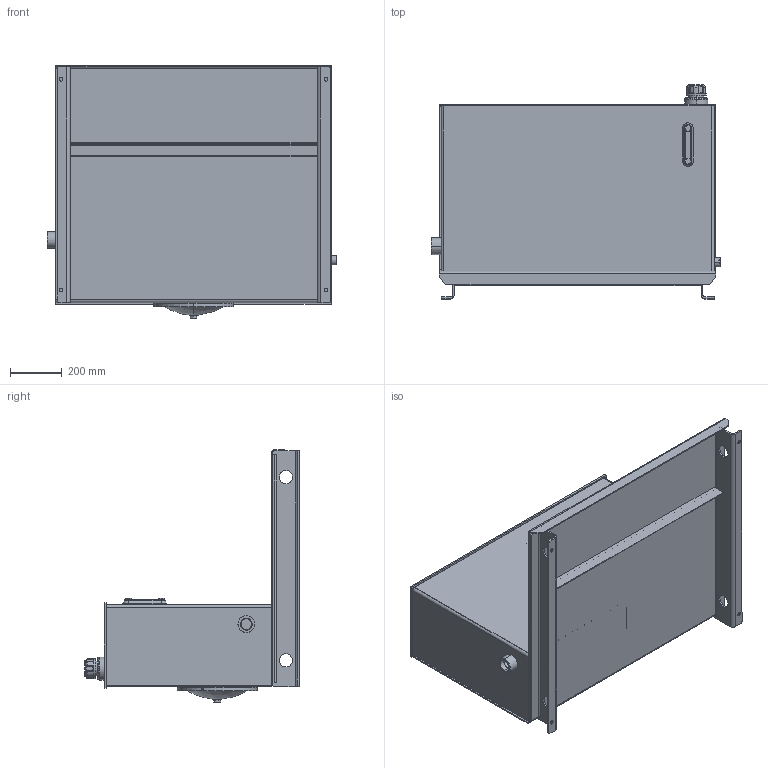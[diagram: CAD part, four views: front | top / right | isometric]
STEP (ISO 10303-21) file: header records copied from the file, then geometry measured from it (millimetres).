
FILE_DESCRIPTION (( 'STEP AP203' ), '1' );
FILE_NAME ('RLC045-FT.STEP', '2015-01-07T16:53:58', ( '' ), ( '' ), 'SwSTEP 2.0', 'SolidWorks 2014', '' );
FILE_SCHEMA (( 'CONFIG_CONTROL_DESIGN' ));
Length unit declared in the file: inch
Products named in the file (1): RLC045-FT
Bounding box: 1117.6 x 825.82 x 974.99 mm (x, y, z)
Volume: 18434496.1 mm3; surface area: 7765282.3 mm2
Topology: 20 solids, 20 shells, 703 faces, 1655 edges, 991 vertices
Faces by surface type: cylinder 258, plane 236, cone 86, torus 49, bspline 46, sphere 28
Entity records: 22418 total; most frequent: CARTESIAN_POINT 6012, DIRECTION 3589, ORIENTED_EDGE 3286, EDGE_CURVE 1643, AXIS2_PLACEMENT_3D 1420, VERTEX_POINT 991, EDGE_LOOP 806, CIRCLE 762
